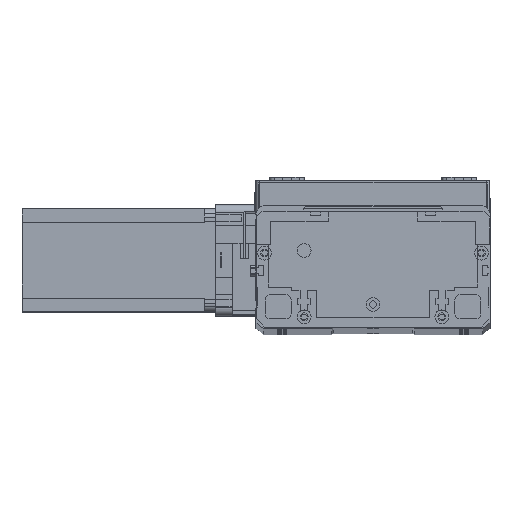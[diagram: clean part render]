
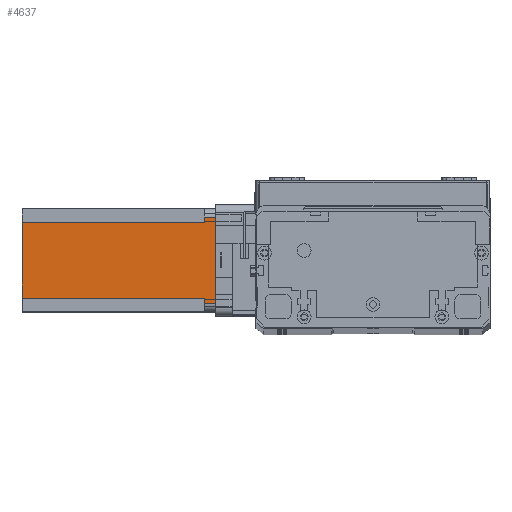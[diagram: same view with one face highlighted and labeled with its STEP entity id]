
A CAD part, top view. The second image highlights one B-rep face of the part: STEP entity #4637.
In plain terms, the highlighted planar face has unit normal (0, 0, 1) as drawn and (0, -1, 0) by its records, which use the part's own axes.
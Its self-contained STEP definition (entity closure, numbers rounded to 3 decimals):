
#405 = ORIENTED_EDGE ( 'NONE', *, *, #21399, .F. ) ;
#838 = ORIENTED_EDGE ( 'NONE', *, *, #19397, .F. ) ;
#1195 = VERTEX_POINT ( 'NONE', #14348 ) ;
#1296 = LINE ( 'NONE', #23161, #16051 ) ;
#1531 = ORIENTED_EDGE ( 'NONE', *, *, #2261, .T. ) ;
#1881 = VERTEX_POINT ( 'NONE', #17721 ) ;
#2261 = EDGE_CURVE ( 'NONE', #10958, #1195, #14917, .T. ) ;
#2911 = DIRECTION ( 'NONE',  ( 0., 0., -1. ) ) ;
#2913 = FACE_OUTER_BOUND ( 'NONE', #4714, .T. ) ;
#3008 = DIRECTION ( 'NONE',  ( 0., -1., 0. ) ) ;
#3327 = CARTESIAN_POINT ( 'NONE',  ( 0., 0., -112.5 ) ) ;
#3356 = PLANE ( 'NONE',  #19501 ) ;
#3367 = VERTEX_POINT ( 'NONE', #7294 ) ;
#3621 = LINE ( 'NONE', #7293, #14116 ) ;
#4637 = ADVANCED_FACE ( 'NONE', ( #2913 ), #3356, .T. ) ;
#4714 = EDGE_LOOP ( 'NONE', ( #18351, #1531, #405, #18062, #24231, #12454, #15271, #838 ) ) ;
#5144 = VECTOR ( 'NONE', #21195, 1000. ) ;
#5864 = EDGE_CURVE ( 'NONE', #1881, #17059, #10752, .T. ) ;
#6276 = LINE ( 'NONE', #23175, #22091 ) ;
#7293 = CARTESIAN_POINT ( 'NONE',  ( 8., 0., -112.5 ) ) ;
#7294 = CARTESIAN_POINT ( 'NONE',  ( 8., 0., -6.5 ) ) ;
#7382 = DIRECTION ( 'NONE',  ( 0., 0., 1. ) ) ;
#8192 = VERTEX_POINT ( 'NONE', #19889 ) ;
#8929 = CARTESIAN_POINT ( 'NONE',  ( 5., 0., -6.5 ) ) ;
#9411 = CARTESIAN_POINT ( 'NONE',  ( 55., 0., -112.5 ) ) ;
#9822 = VECTOR ( 'NONE', #21298, 1000. ) ;
#10019 = EDGE_CURVE ( 'NONE', #18976, #3367, #3621, .T. ) ;
#10127 = EDGE_CURVE ( 'NONE', #3367, #17059, #12191, .T. ) ;
#10453 = EDGE_CURVE ( 'NONE', #18976, #16468, #1296, .T. ) ;
#10752 = LINE ( 'NONE', #21576, #5144 ) ;
#10958 = VERTEX_POINT ( 'NONE', #13267 ) ;
#10971 = DIRECTION ( 'NONE',  ( 1., 0., 0. ) ) ;
#11554 = VECTOR ( 'NONE', #11901, 1000. ) ;
#11901 = DIRECTION ( 'NONE',  ( -1., 0., 0. ) ) ;
#12191 = LINE ( 'NONE', #13960, #11554 ) ;
#12454 = ORIENTED_EDGE ( 'NONE', *, *, #10019, .F. ) ;
#13267 = CARTESIAN_POINT ( 'NONE',  ( 55., 0., -6.5 ) ) ;
#13960 = CARTESIAN_POINT ( 'NONE',  ( 8., 0., -6.5 ) ) ;
#14116 = VECTOR ( 'NONE', #23615, 1000. ) ;
#14261 = VECTOR ( 'NONE', #7382, 1000. ) ;
#14348 = CARTESIAN_POINT ( 'NONE',  ( 55., 0., 0. ) ) ;
#14917 = LINE ( 'NONE', #9411, #14261 ) ;
#15052 = CARTESIAN_POINT ( 'NONE',  ( 52., 0., -112.5 ) ) ;
#15271 = ORIENTED_EDGE ( 'NONE', *, *, #10453, .T. ) ;
#15281 = CARTESIAN_POINT ( 'NONE',  ( 52., 0., -112.5 ) ) ;
#16051 = VECTOR ( 'NONE', #10971, 1000. ) ;
#16468 = VERTEX_POINT ( 'NONE', #15052 ) ;
#17059 = VERTEX_POINT ( 'NONE', #8929 ) ;
#17721 = CARTESIAN_POINT ( 'NONE',  ( 5., 0., 0. ) ) ;
#17974 = CARTESIAN_POINT ( 'NONE',  ( 0., 0., 0. ) ) ;
#18062 = ORIENTED_EDGE ( 'NONE', *, *, #5864, .T. ) ;
#18351 = ORIENTED_EDGE ( 'NONE', *, *, #24091, .T. ) ;
#18976 = VERTEX_POINT ( 'NONE', #23602 ) ;
#19397 = EDGE_CURVE ( 'NONE', #8192, #16468, #26627, .T. ) ;
#19501 = AXIS2_PLACEMENT_3D ( 'NONE', #3327, #3008, #2911 ) ;
#19889 = CARTESIAN_POINT ( 'NONE',  ( 52., 0., -6.5 ) ) ;
#19989 = DIRECTION ( 'NONE',  ( 1., 0., 0. ) ) ;
#20034 = LINE ( 'NONE', #17974, #21278 ) ;
#21195 = DIRECTION ( 'NONE',  ( 0., 0., -1. ) ) ;
#21278 = VECTOR ( 'NONE', #19989, 1000. ) ;
#21298 = DIRECTION ( 'NONE',  ( 0., 0., -1. ) ) ;
#21399 = EDGE_CURVE ( 'NONE', #1881, #1195, #20034, .T. ) ;
#21576 = CARTESIAN_POINT ( 'NONE',  ( 5., 0., -112.5 ) ) ;
#22091 = VECTOR ( 'NONE', #25155, 1000. ) ;
#23161 = CARTESIAN_POINT ( 'NONE',  ( 0., 0., -112.5 ) ) ;
#23175 = CARTESIAN_POINT ( 'NONE',  ( 52., 0., -6.5 ) ) ;
#23602 = CARTESIAN_POINT ( 'NONE',  ( 8., 0., -112.5 ) ) ;
#23615 = DIRECTION ( 'NONE',  ( 0., 0., 1. ) ) ;
#24091 = EDGE_CURVE ( 'NONE', #8192, #10958, #6276, .T. ) ;
#24231 = ORIENTED_EDGE ( 'NONE', *, *, #10127, .F. ) ;
#25155 = DIRECTION ( 'NONE',  ( 1., 0., 0. ) ) ;
#26627 = LINE ( 'NONE', #15281, #9822 ) ;
